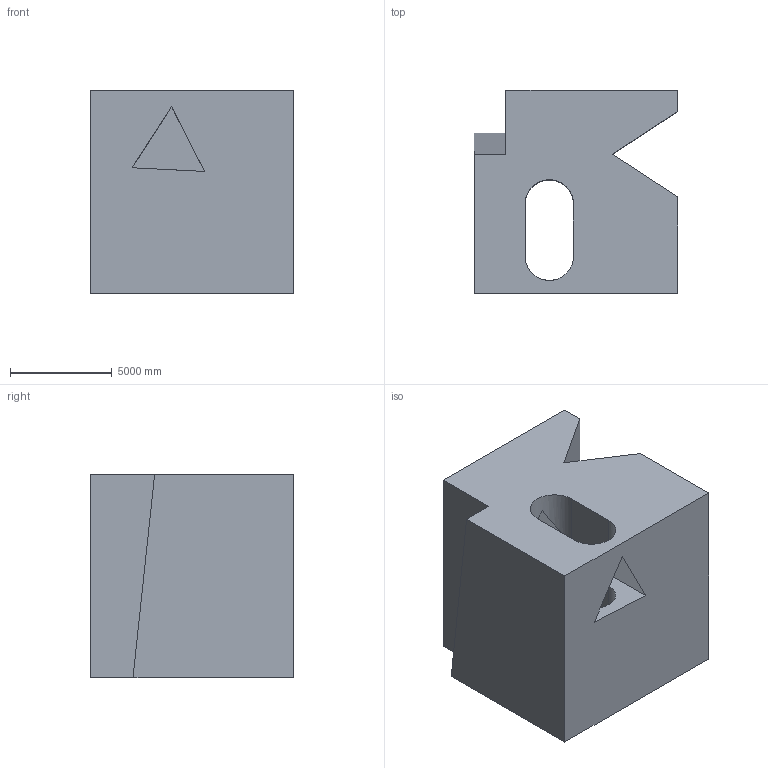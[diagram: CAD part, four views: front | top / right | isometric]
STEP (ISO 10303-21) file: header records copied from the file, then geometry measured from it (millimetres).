
FILE_DESCRIPTION (( 'STEP AP203' ), '1' );
FILE_NAME ('132.STEP', '2022-09-06T13:21:11', ( 'user' ), ( '' ), 'SwSTEP 2.0', 'SolidWorks 2021', '' );
FILE_SCHEMA (( 'CONFIG_CONTROL_DESIGN' ));
Length unit declared in the file: centimetre
Products named in the file (1): 132
Bounding box: 10000 x 10000 x 10000 mm (x, y, z)
Volume: 765165831558.5 mm3; surface area: 751337028.7 mm2
Topology: 1 solids, 1 shells, 23 faces, 63 edges, 42 vertices
Faces by surface type: plane 19, cylinder 4
Entity records: 806 total; most frequent: CARTESIAN_POINT 147, ORIENTED_EDGE 126, DIRECTION 109, EDGE_CURVE 63, VECTOR 53, LINE 53, VERTEX_POINT 42, AXIS2_PLACEMENT_3D 28
